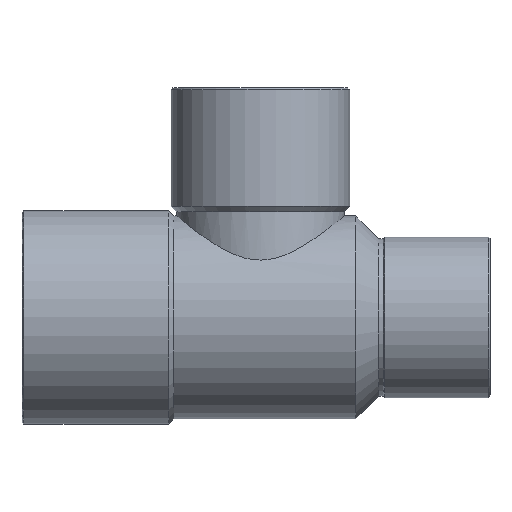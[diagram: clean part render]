
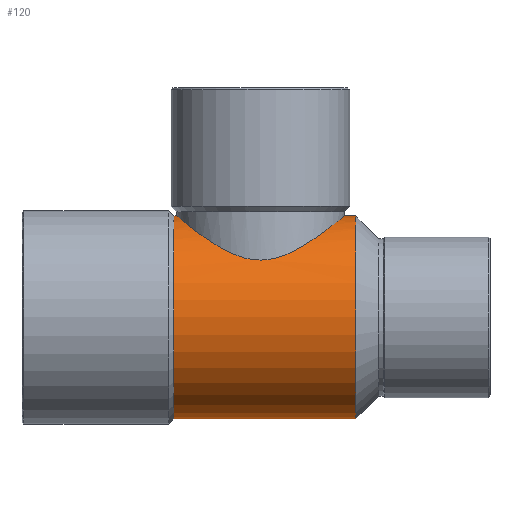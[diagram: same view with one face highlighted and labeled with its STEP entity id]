
A CAD part, top view. The second image highlights one B-rep face of the part: STEP entity #120.
In plain terms, the highlighted cylindrical face has radius 11.5 mm (diameter 23 mm), a partial arc.
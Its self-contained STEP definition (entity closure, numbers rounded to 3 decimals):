
#44=CARTESIAN_POINT('',(-0.5,0.,0.0));
#45=DIRECTION('',(1.0,0.,0.0));
#46=DIRECTION('',(0.,1.0,0.0));
#47=AXIS2_PLACEMENT_3D('',#44,#45,#46);
#48=CYLINDRICAL_SURFACE('',#47,11.5);
#49=CARTESIAN_POINT('',(-9.797,11.5,0.));
#50=VERTEX_POINT('',#49);
#51=CARTESIAN_POINT('',(-9.5,11.5,0.));
#52=VERTEX_POINT('',#51);
#53=CARTESIAN_POINT('',(-9.797,11.5,0.));
#54=DIRECTION('',(1.0,0.0,0.0));
#55=VECTOR('',#54,0.297);
#56=LINE('',#53,#55);
#57=EDGE_CURVE('',#50,#52,#56,.T.);
#58=ORIENTED_EDGE('',*,*,#57,.F.);
#59=CARTESIAN_POINT('',(-9.797,-11.5,0.));
#60=VERTEX_POINT('',#59);
#61=CARTESIAN_POINT('',(-9.797,0.,0.0));
#62=DIRECTION('',(1.0,0.,0.0));
#63=DIRECTION('',(0.,1.0,0.0));
#64=AXIS2_PLACEMENT_3D('',#61,#62,#63);
#65=CIRCLE('',#64,11.5);
#66=EDGE_CURVE('',#50,#60,#65,.T.);
#67=ORIENTED_EDGE('',*,*,#66,.T.);
#68=CARTESIAN_POINT('',(10.802,-11.5,0.));
#69=VERTEX_POINT('',#68);
#70=CARTESIAN_POINT('',(10.802,-11.5,0.));
#71=DIRECTION('',(-1.0,0.0,0.0));
#72=VECTOR('',#71,20.599);
#73=LINE('',#70,#72);
#74=EDGE_CURVE('',#69,#60,#73,.T.);
#75=ORIENTED_EDGE('',*,*,#74,.F.);
#76=CARTESIAN_POINT('',(10.802,11.5,0.0));
#77=VERTEX_POINT('',#76);
#78=CARTESIAN_POINT('',(10.802,0.,0.0));
#79=DIRECTION('',(-1.0,0.,0.0));
#80=DIRECTION('',(0.,1.0,0.0));
#81=AXIS2_PLACEMENT_3D('',#78,#79,#80);
#82=CIRCLE('',#81,11.5);
#83=EDGE_CURVE('',#69,#77,#82,.T.);
#84=ORIENTED_EDGE('',*,*,#83,.T.);
#85=CARTESIAN_POINT('',(9.5,11.5,0.));
#86=VERTEX_POINT('',#85);
#87=CARTESIAN_POINT('',(9.5,11.5,0.));
#88=DIRECTION('',(1.0,0.0,0.0));
#89=VECTOR('',#88,1.302);
#90=LINE('',#87,#89);
#91=EDGE_CURVE('',#86,#77,#90,.T.);
#92=ORIENTED_EDGE('',*,*,#91,.F.);
#93=CARTESIAN_POINT('',(9.5,11.5,0.));
#94=CARTESIAN_POINT('',(9.5,11.5,1.264));
#95=CARTESIAN_POINT('',(9.233,11.277,2.569));
#96=CARTESIAN_POINT('',(8.239,10.478,4.896));
#97=CARTESIAN_POINT('',(7.514,9.907,5.921));
#98=CARTESIAN_POINT('',(5.889,8.738,7.546));
#99=CARTESIAN_POINT('',(4.864,8.042,8.254));
#100=CARTESIAN_POINT('',(3.15,7.189,8.984));
#101=CARTESIAN_POINT('',(2.549,6.938,9.174));
#102=CARTESIAN_POINT('',(1.303,6.583,9.432));
#103=CARTESIAN_POINT('',(0.657,6.481,9.5));
#104=CARTESIAN_POINT('',(-0.657,6.481,9.5));
#105=CARTESIAN_POINT('',(-1.303,6.583,9.432));
#106=CARTESIAN_POINT('',(-2.549,6.938,9.174));
#107=CARTESIAN_POINT('',(-3.15,7.189,8.984));
#108=CARTESIAN_POINT('',(-4.864,8.042,8.254));
#109=CARTESIAN_POINT('',(-5.889,8.738,7.546));
#110=CARTESIAN_POINT('',(-7.514,9.907,5.921));
#111=CARTESIAN_POINT('',(-8.239,10.478,4.896));
#112=CARTESIAN_POINT('',(-9.233,11.277,2.569));
#113=CARTESIAN_POINT('',(-9.5,11.5,1.264));
#114=CARTESIAN_POINT('',(-9.5,11.5,0.));
#115=B_SPLINE_CURVE_WITH_KNOTS('',3,(#93,#94,#95,#96,#97,#98,#99,#100,#101,#102,#103,#104,#105,#106,#107,#108,#109,#110,#111,#112,#113,#114),.UNSPECIFIED.,.F.,.U.,(4,2,2,2,2,2,2,2,2,2,4),(1.547,1.926,2.305,2.699,2.896,3.094,3.291,3.488,3.882,4.261,4.64),.UNSPECIFIED.);
#116=EDGE_CURVE('',#86,#52,#115,.T.);
#117=ORIENTED_EDGE('',*,*,#116,.T.);
#118=EDGE_LOOP('',(#58,#67,#75,#84,#92,#117));
#119=FACE_OUTER_BOUND('',#118,.T.);
#120=ADVANCED_FACE('',(#119),#48,.T.);
